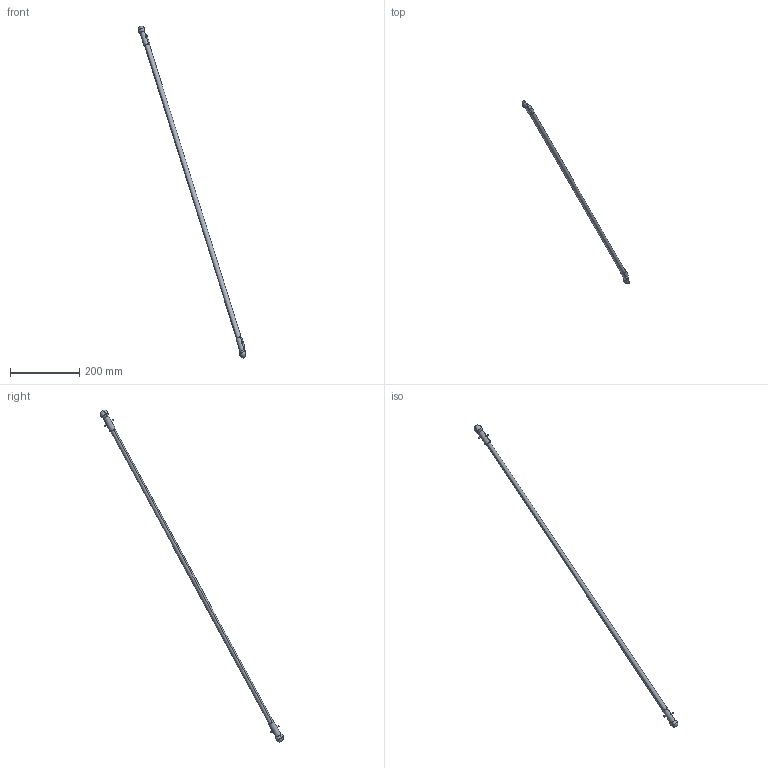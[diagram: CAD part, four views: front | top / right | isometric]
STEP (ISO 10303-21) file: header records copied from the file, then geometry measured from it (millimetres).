
FILE_DESCRIPTION (( 'STEP AP214' ), '1' );
FILE_NAME ('IRB360_X-1600-STD-4D_rev05_LA3_2_CAD.STEP', '2025-10-31T12:19:30', ( '' ), ( '' ), 'SwSTEP 2.0', 'SolidWorks 2024', '' );
FILE_SCHEMA (( 'AUTOMOTIVE_DESIGN' ));
Length unit declared in the file: millimetre
Products named in the file (1): IRB360_X-1600-STD-4D_rev05_LA3_2_CAD
Bounding box: 311.89 x 530.31 x 961.46 mm (x, y, z)
Volume: 177298.7 mm3; surface area: 51954.9 mm2
Topology: 1 solids, 1 shells, 44 faces, 114 edges, 70 vertices
Faces by surface type: cylinder 16, sphere 10, plane 10, cone 8
Entity records: 1735 total; most frequent: CARTESIAN_POINT 697, DIRECTION 220, ORIENTED_EDGE 208, EDGE_CURVE 104, AXIS2_PLACEMENT_3D 93, VERTEX_POINT 66, EDGE_LOOP 48, CIRCLE 48
